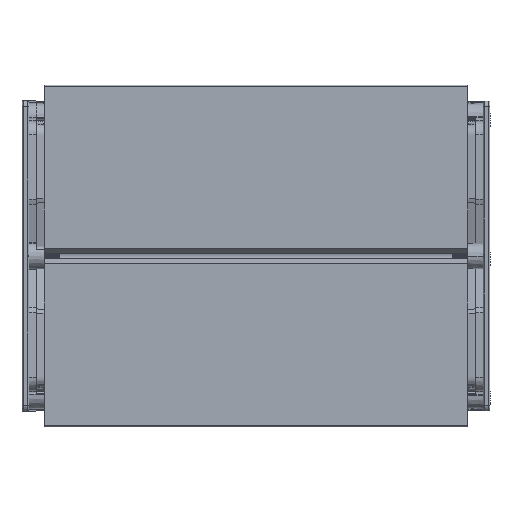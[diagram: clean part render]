
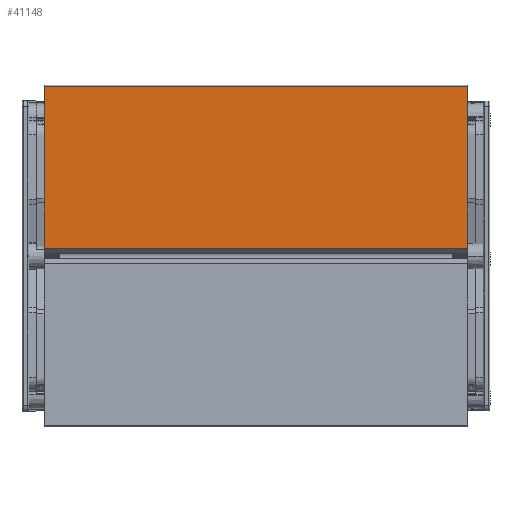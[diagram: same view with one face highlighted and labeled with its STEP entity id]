
A CAD part, front view. The second image highlights one B-rep face of the part: STEP entity #41148.
In plain terms, the highlighted planar face has unit normal (0, -1, 0).
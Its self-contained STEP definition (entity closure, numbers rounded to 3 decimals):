
#1334 = LINE ( 'NONE', #14370, #97515 ) ;
#1847 = VECTOR ( 'NONE', #46881, 1000. ) ;
#5240 = VERTEX_POINT ( 'NONE', #228669 ) ;
#14370 = CARTESIAN_POINT ( 'NONE',  ( 156., -10.193, 56.265 ) ) ;
#22811 = EDGE_CURVE ( 'NONE', #72689, #5240, #49957, .T. ) ;
#38419 = ORIENTED_EDGE ( 'NONE', *, *, #67568, .F. ) ;
#41148 = ADVANCED_FACE ( 'NONE', ( #192141 ), #153678, .F. ) ;
#45882 = CARTESIAN_POINT ( 'NONE',  ( 156., -10.193, 2.887 ) ) ;
#46881 = DIRECTION ( 'NONE',  ( 0., 0., -1. ) ) ;
#49957 = LINE ( 'NONE', #102979, #1847 ) ;
#51980 = CARTESIAN_POINT ( 'NONE',  ( 156., -10.193, 2.887 ) ) ;
#61234 = ORIENTED_EDGE ( 'NONE', *, *, #22811, .T. ) ;
#67568 = EDGE_CURVE ( 'NONE', #149108, #177610, #1334, .T. ) ;
#72689 = VERTEX_POINT ( 'NONE', #150297 ) ;
#86359 = AXIS2_PLACEMENT_3D ( 'NONE', #171865, #208916, #214454 ) ;
#90148 = EDGE_LOOP ( 'NONE', ( #180493, #38419, #125602, #61234 ) ) ;
#97515 = VECTOR ( 'NONE', #140979, 1000. ) ;
#98487 = CARTESIAN_POINT ( 'NONE',  ( 156., -10.193, 62.5 ) ) ;
#101187 = EDGE_CURVE ( 'NONE', #177610, #5240, #220376, .T. ) ;
#102979 = CARTESIAN_POINT ( 'NONE',  ( 0., -10.193, 56.265 ) ) ;
#125602 = ORIENTED_EDGE ( 'NONE', *, *, #153966, .T. ) ;
#132915 = CARTESIAN_POINT ( 'NONE',  ( 156., -10.193, 62.5 ) ) ;
#140979 = DIRECTION ( 'NONE',  ( 0., 0., -1. ) ) ;
#149108 = VERTEX_POINT ( 'NONE', #132915 ) ;
#150297 = CARTESIAN_POINT ( 'NONE',  ( 0., -10.193, 62.5 ) ) ;
#153678 = PLANE ( 'NONE',  #86359 ) ;
#153966 = EDGE_CURVE ( 'NONE', #149108, #72689, #201066, .T. ) ;
#171865 = CARTESIAN_POINT ( 'NONE',  ( 156., -10.193, 56.265 ) ) ;
#175715 = VECTOR ( 'NONE', #185653, 1000. ) ;
#177610 = VERTEX_POINT ( 'NONE', #45882 ) ;
#180493 = ORIENTED_EDGE ( 'NONE', *, *, #101187, .F. ) ;
#185653 = DIRECTION ( 'NONE',  ( -1., 0., 0. ) ) ;
#192141 = FACE_OUTER_BOUND ( 'NONE', #90148, .T. ) ;
#194966 = VECTOR ( 'NONE', #198331, 1000. ) ;
#198331 = DIRECTION ( 'NONE',  ( -1., 0., 0. ) ) ;
#201066 = LINE ( 'NONE', #98487, #175715 ) ;
#208916 = DIRECTION ( 'NONE',  ( 0., 1., 0. ) ) ;
#214454 = DIRECTION ( 'NONE',  ( 0., 0., 1. ) ) ;
#220376 = LINE ( 'NONE', #51980, #194966 ) ;
#228669 = CARTESIAN_POINT ( 'NONE',  ( 0., -10.193, 2.887 ) ) ;
